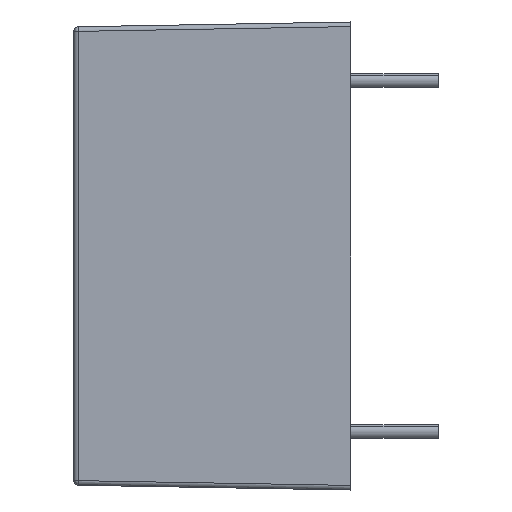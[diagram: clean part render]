
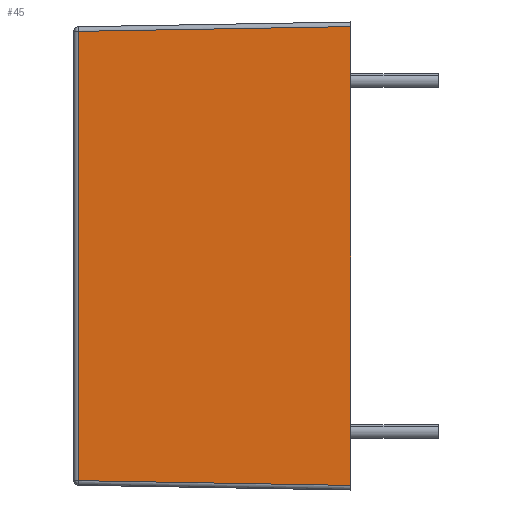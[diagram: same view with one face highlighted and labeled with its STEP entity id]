
A CAD part, left-side view. The second image highlights one B-rep face of the part: STEP entity #45.
In plain terms, the highlighted planar face has unit normal (-1, 0.018, 0).
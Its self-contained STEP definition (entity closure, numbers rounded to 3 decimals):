
#22 = ORIENTED_EDGE ( 'NONE', *, *, #23, .T. ) ;
#23 = EDGE_CURVE ( 'NONE', #50, #24, #948, .T. ) ;
#24 = VERTEX_POINT ( 'NONE', #944 ) ;
#25 = ORIENTED_EDGE ( 'NONE', *, *, #26, .T. ) ;
#26 = EDGE_CURVE ( 'NONE', #24, #27, #943, .T. ) ;
#27 = VERTEX_POINT ( 'NONE', #939 ) ;
#45 = ADVANCED_FACE ( 'NONE', ( #1034 ), #1033, .T. ) ;
#46 = EDGE_LOOP ( 'NONE', ( #47, #22, #25, #114 ) ) ;
#47 = ORIENTED_EDGE ( 'NONE', *, *, #48, .T. ) ;
#48 = EDGE_CURVE ( 'NONE', #49, #50, #1028, .T. ) ;
#49 = VERTEX_POINT ( 'NONE', #1024 ) ;
#50 = VERTEX_POINT ( 'NONE', #1023 ) ;
#114 = ORIENTED_EDGE ( 'NONE', *, *, #115, .T. ) ;
#115 = EDGE_CURVE ( 'NONE', #27, #49, #1248, .T. ) ;
#939 = CARTESIAN_POINT ( 'NONE',  ( -16., 0., 9.95 ) ) ;
#940 = DIRECTION ( 'NONE',  ( 0., 0., 1. ) ) ;
#941 = VECTOR ( 'NONE', #940, 1000. ) ;
#942 = CARTESIAN_POINT ( 'NONE',  ( -16., 0., -10.15 ) ) ;
#943 = LINE ( 'NONE', #942, #941 ) ;
#944 = CARTESIAN_POINT ( 'NONE',  ( -16., 0., -9.95 ) ) ;
#945 = DIRECTION ( 'NONE',  ( -0.017, -1., -0.017 ) ) ;
#946 = VECTOR ( 'NONE', #945, 1000. ) ;
#947 = CARTESIAN_POINT ( 'NONE',  ( -16., -0.003, -9.95 ) ) ;
#948 = LINE ( 'NONE', #947, #946 ) ;
#1023 = CARTESIAN_POINT ( 'NONE',  ( -15.794, 11.803, -9.744 ) ) ;
#1024 = CARTESIAN_POINT ( 'NONE',  ( -15.794, 11.803, 9.744 ) ) ;
#1025 = DIRECTION ( 'NONE',  ( 0., 0., -1. ) ) ;
#1026 = VECTOR ( 'NONE', #1025, 1000. ) ;
#1027 = CARTESIAN_POINT ( 'NONE',  ( -15.794, 11.803, -9.941 ) ) ;
#1028 = LINE ( 'NONE', #1027, #1026 ) ;
#1029 = DIRECTION ( 'NONE',  ( -0.017, -1., 0. ) ) ;
#1030 = DIRECTION ( 'NONE',  ( -1., 0.017, 0. ) ) ;
#1031 = CARTESIAN_POINT ( 'NONE',  ( -16., 0., -10.15 ) ) ;
#1032 = AXIS2_PLACEMENT_3D ( 'NONE', #1031, #1030, #1029 ) ;
#1033 = PLANE ( 'NONE',  #1032 ) ;
#1034 = FACE_OUTER_BOUND ( 'NONE', #46, .T. ) ;
#1245 = DIRECTION ( 'NONE',  ( 0.017, 1., -0.017 ) ) ;
#1246 = VECTOR ( 'NONE', #1245, 1000. ) ;
#1247 = CARTESIAN_POINT ( 'NONE',  ( -15.994, 0.351, 9.944 ) ) ;
#1248 = LINE ( 'NONE', #1247, #1246 ) ;
